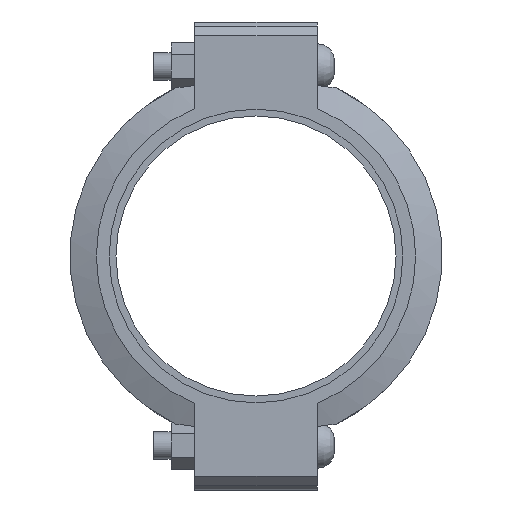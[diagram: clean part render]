
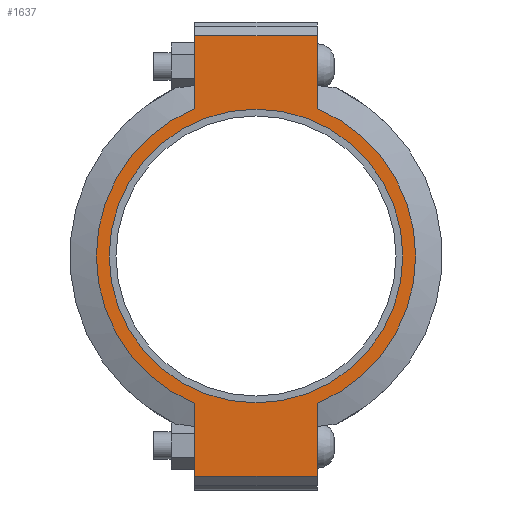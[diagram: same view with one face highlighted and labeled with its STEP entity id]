
A CAD part, left-side view. The second image highlights one B-rep face of the part: STEP entity #1637.
In plain terms, the highlighted planar face has unit normal (-1, 0, 0) as drawn and (0, 0, 1) by its records, which use the part's own axes.
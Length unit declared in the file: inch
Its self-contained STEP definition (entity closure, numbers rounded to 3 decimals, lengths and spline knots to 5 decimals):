
#208=LINE('',#2829,#297);
#219=LINE('',#2880,#308);
#225=LINE('',#2906,#314);
#227=LINE('',#2909,#316);
#228=LINE('',#2914,#317);
#229=LINE('',#2915,#318);
#297=VECTOR('',#2301,0.3937);
#308=VECTOR('',#2332,0.3937);
#314=VECTOR('',#2350,0.3937);
#316=VECTOR('',#2354,0.3937);
#317=VECTOR('',#2359,0.3937);
#318=VECTOR('',#2360,0.3937);
#380=FACE_BOUND('',#557,.T.);
#448=FACE_OUTER_BOUND('',#556,.T.);
#556=EDGE_LOOP('',(#1332,#1333,#1334,#1335,#1336,#1337,#1338,#1339));
#557=EDGE_LOOP('',(#1340));
#639=CIRCLE('',#1865,5.375);
#663=CIRCLE('',#1917,5.845);
#664=CIRCLE('',#1918,5.845);
#735=VERTEX_POINT('',#2655);
#776=VERTEX_POINT('',#2826);
#777=VERTEX_POINT('',#2828);
#794=VERTEX_POINT('',#2875);
#795=VERTEX_POINT('',#2879);
#802=VERTEX_POINT('',#2901);
#803=VERTEX_POINT('',#2905);
#804=VERTEX_POINT('',#2911);
#805=VERTEX_POINT('',#2913);
#899=EDGE_CURVE('',#735,#735,#639,.T.);
#956=EDGE_CURVE('',#777,#776,#208,.T.);
#977=EDGE_CURVE('',#795,#794,#219,.T.);
#988=EDGE_CURVE('',#803,#802,#225,.T.);
#990=EDGE_CURVE('',#803,#776,#227,.T.);
#991=EDGE_CURVE('',#802,#804,#663,.T.);
#992=EDGE_CURVE('',#804,#805,#228,.T.);
#993=EDGE_CURVE('',#795,#805,#229,.T.);
#994=EDGE_CURVE('',#794,#777,#664,.T.);
#1332=ORIENTED_EDGE('',*,*,#990,.F.);
#1333=ORIENTED_EDGE('',*,*,#988,.T.);
#1334=ORIENTED_EDGE('',*,*,#991,.T.);
#1335=ORIENTED_EDGE('',*,*,#992,.T.);
#1336=ORIENTED_EDGE('',*,*,#993,.F.);
#1337=ORIENTED_EDGE('',*,*,#977,.T.);
#1338=ORIENTED_EDGE('',*,*,#994,.T.);
#1339=ORIENTED_EDGE('',*,*,#956,.T.);
#1340=ORIENTED_EDGE('',*,*,#899,.T.);
#1477=PLANE('',#1916);
#1637=ADVANCED_FACE('',(#448,#380),#1477,.T.);
#1865=AXIS2_PLACEMENT_3D('',#2657,#2191,#2192);
#1916=AXIS2_PLACEMENT_3D('',#2910,#2355,#2356);
#1917=AXIS2_PLACEMENT_3D('',#2912,#2357,#2358);
#1918=AXIS2_PLACEMENT_3D('',#2916,#2361,#2362);
#2191=DIRECTION('center_axis',(0.,0.,-1.));
#2192=DIRECTION('ref_axis',(-1.,0.,0.));
#2301=DIRECTION('',(-1.,0.,0.));
#2332=DIRECTION('',(-1.,0.,0.));
#2350=DIRECTION('',(1.,0.,0.));
#2354=DIRECTION('',(0.,1.,0.));
#2355=DIRECTION('center_axis',(0.,0.,1.));
#2356=DIRECTION('ref_axis',(1.,0.,0.));
#2357=DIRECTION('center_axis',(0.,0.,1.));
#2358=DIRECTION('ref_axis',(-1.,0.,0.));
#2359=DIRECTION('',(1.,0.,0.));
#2360=DIRECTION('',(0.,-1.,0.));
#2361=DIRECTION('center_axis',(0.,0.,1.));
#2362=DIRECTION('ref_axis',(-1.,0.,0.));
#2655=CARTESIAN_POINT('',(5.375,0.,1.315));
#2657=CARTESIAN_POINT('Origin',(0.,0.,1.315));
#2826=CARTESIAN_POINT('',(-8.065,2.25,1.315));
#2828=CARTESIAN_POINT('',(-5.39458,2.25,1.315));
#2829=CARTESIAN_POINT('',(8.565,2.25,1.315));
#2875=CARTESIAN_POINT('',(5.39458,2.25,1.315));
#2879=CARTESIAN_POINT('',(8.065,2.25,1.315));
#2880=CARTESIAN_POINT('',(8.565,2.25,1.315));
#2901=CARTESIAN_POINT('',(-5.39458,-2.25,1.315));
#2905=CARTESIAN_POINT('',(-8.065,-2.25,1.315));
#2906=CARTESIAN_POINT('',(-8.565,-2.25,1.315));
#2909=CARTESIAN_POINT('',(-8.065,1.125,1.315));
#2910=CARTESIAN_POINT('Origin',(0.,0.,
1.315));
#2911=CARTESIAN_POINT('',(5.39458,-2.25,1.315));
#2912=CARTESIAN_POINT('Origin',(0.,0.,1.315));
#2913=CARTESIAN_POINT('',(8.065,-2.25,1.315));
#2914=CARTESIAN_POINT('',(-8.565,-2.25,1.315));
#2915=CARTESIAN_POINT('',(8.065,-1.125,1.315));
#2916=CARTESIAN_POINT('Origin',(0.,0.,1.315));
